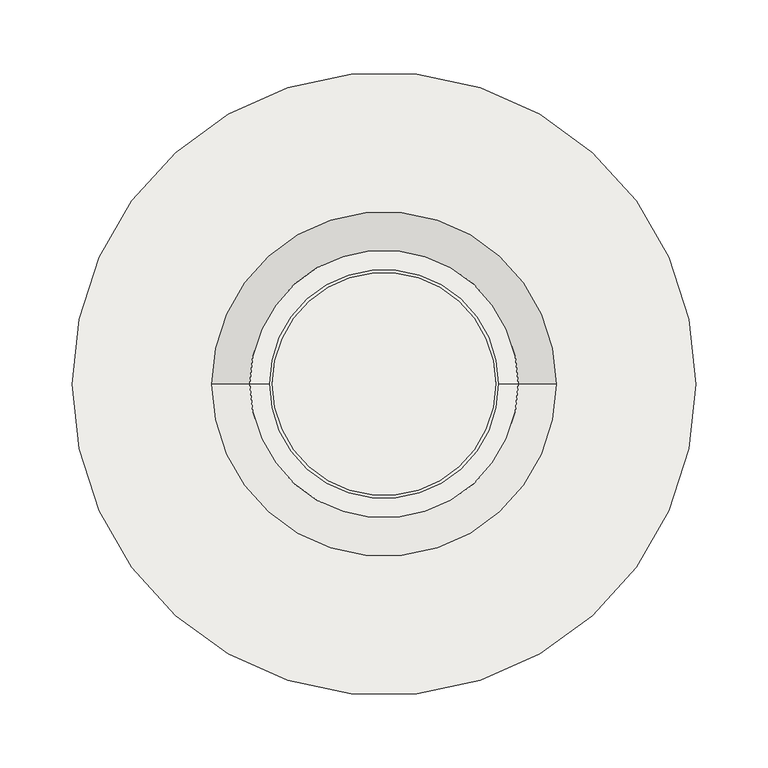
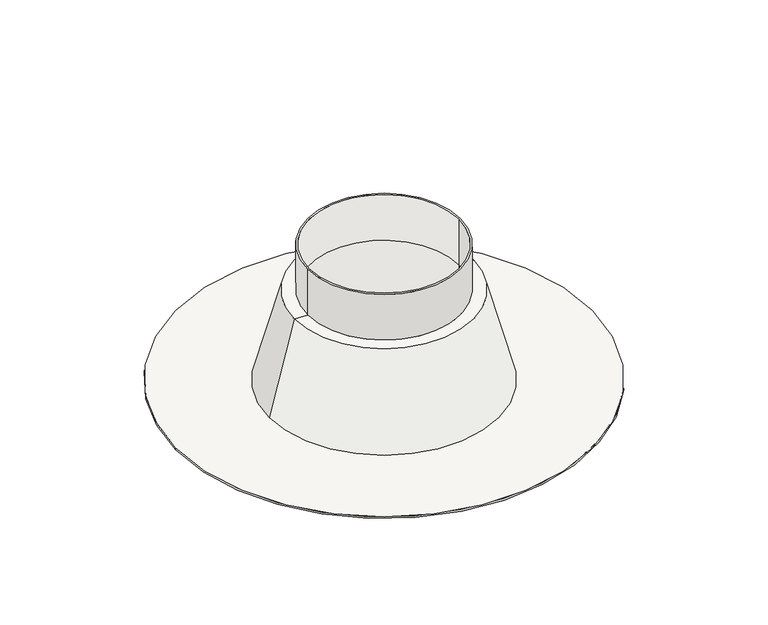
"""IFC4 building model written with IfcOpenShell, lengths in millimetres: covering geometry, RSFen_GM_WPB_weather slate flat roof_M&G : ø160."""

from ifc_helpers import new_model, si_unit, frame, origin, origin_with_axes, place, context, project, spatial, polyline, circle_curve, source, transform, mapped, element, save
from ifc_brep_helpers import plane_surface, cylinder_surface, revolved_surface, advanced_brep


def covering_b4739faa(model_context):
    return source(origin(), model_context, "Body", "AdvancedBrep", [
        advanced_brep(
        [(-215.0, 0.0, 2.0), (215.0, 0.0, 2.0), (-118.7590209, 0.0, 2.0), (118.7590209, 0.0, 2.0), (77.0, 0.0, 2.0), (-77.0, 0.0, 2.0), (-215.0, 0.0, 0.0), (215.0, 0.0, 0.0), (-92.5, 0.0, 100.0), (92.5, 0.0, 100.0), (-79.0, 0.0, 100.0), (79.0, 0.0, 100.0), (-77.0, 0.0, 100.0), (77.0, 0.0, 100.0), (-79.0, 0.0, 150.0), (79.0, 0.0, 150.0), (-77.0, 0.0, 150.0), (77.0, 0.0, 150.0)],
        [
            (0, 1, circle_curve(frame((0.0, 0.0, 2.0), z_axis=(0.0, 0.0, 1.0), x_axis=(1.0, 0.0, 0.0)), 215.0)),
            (1, 0, circle_curve(frame((0.0, 0.0, 2.0), z_axis=(0.0, 0.0, 1.0), x_axis=(1.0, 0.0, 0.0)), 215.0)),
            (2, 3, circle_curve(frame((0.0, 0.0, 2.0), z_axis=(0.0, 0.0, -1.0), x_axis=(-1.0, 0.0, 0.0)), 118.7590209)),
            (3, 2, circle_curve(frame((0.0, 0.0, 2.0), z_axis=(0.0, 0.0, -1.0), x_axis=(-1.0, 0.0, 0.0)), 118.7590209)),
            (4, 5, circle_curve(frame((0.0, 0.0, 2.0), z_axis=(0.0, 0.0, 1.0), x_axis=(-1.0, 0.0, 0.0)), 77.0)),
            (5, 4, circle_curve(frame((0.0, 0.0, 2.0), z_axis=(0.0, 0.0, 1.0), x_axis=(-1.0, 0.0, 0.0)), 77.0)),
            (6, 7, circle_curve(frame((0.0, 0.0, 0.0), z_axis=(0.0, 0.0, -1.0), x_axis=(1.0, 0.0, 0.0)), 215.0)),
            (7, 6, circle_curve(frame((0.0, 0.0, 0.0), z_axis=(0.0, 0.0, -1.0), x_axis=(1.0, 0.0, 0.0)), 215.0)),
            (0, 6),
            (7, 1),
            (2, 8),
            (8, 9, circle_curve(frame((0.0, 0.0, 100.0), z_axis=(0.0, 0.0, -1.0), x_axis=(-1.0, 0.0, 0.0)), 92.5)),
            (9, 3),
            (9, 8, circle_curve(frame((0.0, 0.0, 100.0), z_axis=(0.0, 0.0, -1.0), x_axis=(-1.0, 0.0, 0.0)), 92.5)),
            (8, 10),
            (10, 11, circle_curve(frame((0.0, 0.0, 100.0), z_axis=(0.0, 0.0, -1.0), x_axis=(1.0, 0.0, 0.0)), 79.0)),
            (11, 9),
            (11, 10, circle_curve(frame((0.0, 0.0, 100.0), z_axis=(0.0, 0.0, -1.0), x_axis=(1.0, 0.0, 0.0)), 79.0)),
            (12, 5),
            (4, 13),
            (13, 12, circle_curve(frame((0.0, 0.0, 100.0), z_axis=(0.0, 0.0, 1.0), x_axis=(-1.0, 0.0, 0.0)), 77.0)),
            (12, 13, circle_curve(frame((0.0, 0.0, 100.0), z_axis=(0.0, 0.0, 1.0), x_axis=(-1.0, 0.0, 0.0)), 77.0)),
            (14, 15, circle_curve(frame((0.0, 0.0, 150.0), z_axis=(0.0, 0.0, 1.0), x_axis=(1.0, 0.0, 0.0)), 79.0)),
            (15, 14, circle_curve(frame((0.0, 0.0, 150.0), z_axis=(0.0, 0.0, 1.0), x_axis=(1.0, 0.0, 0.0)), 79.0)),
            (16, 17, circle_curve(frame((0.0, 0.0, 150.0), z_axis=(0.0, 0.0, -1.0), x_axis=(1.0, 0.0, 0.0)), 77.0)),
            (17, 16, circle_curve(frame((0.0, 0.0, 150.0), z_axis=(0.0, 0.0, -1.0), x_axis=(1.0, 0.0, 0.0)), 77.0)),
            (14, 10),
            (11, 15),
            (16, 12),
            (13, 17),
        ],
        [
            plane_surface(frame((215.0, 0.0, 2.0), z_axis=(0.0, 0.0, 1.0), x_axis=(0.0, 1.0, 0.0))),
            plane_surface(frame((215.0, 0.0, 0.0), z_axis=(0.0, 0.0, -1.0), x_axis=(0.0, -1.0, 0.0))),
            cylinder_surface(origin_with_axes(), 215.0),
            revolved_surface(polyline([(-92.5, 0.0, 100.0), (-118.7590209, 0.0, 2.0)]), (0.0, 0.0, 2214.3150031), (0.0, 0.0, -1.0)),
            plane_surface(frame((0.0, 0.0, 100.0), z_axis=(0.0, 0.0, 1.0), x_axis=(-1.0, 0.0, 0.0))),
            revolved_surface(polyline([(-77.0, 0.0, 2.0), (-77.0, 0.0, 100.0)]), (0.0, 0.0, 2214.3150031), (0.0, 0.0, -1.0)),
            plane_surface(frame((79.0, 0.0, 150.0), z_axis=(0.0, 0.0, 1.0), x_axis=(0.0, 1.0, 0.0))),
            cylinder_surface(frame((0.0, 0.0, 100.0), z_axis=(0.0, 0.0, 1.0), x_axis=(1.0, 0.0, 0.0)), 79.0),
            revolved_surface(polyline([(77.0, 0.0, 100.0), (77.0, 0.0, 150.0)]), (0.0, 0.0, 0.0), (0.0, 0.0, -1.0)),
        ],
        [
            (0, [[1, 2], [3, 4]]),
            (0, [[5, 6]]),
            (1, [[7, 8]]),
            (2, [[-1, 9, -8, 10]]),
            (2, [[-2, -10, -7, -9]]),
            (3, [[11, 12, 13, -3]]),
            (3, [[-11, -4, -13, 14]]),
            (4, [[-12, 15, 16, 17]]),
            (4, [[-14, -17, 18, -15]]),
            (5, [[19, -5, 20, 21]]),
            (5, [[-19, 22, -20, -6]]),
            (6, [[23, 24], [25, 26]]),
            (7, [[-23, 27, -18, 28]]),
            (7, [[-24, -28, -16, -27]]),
            (8, [[-25, 29, -21, 30]]),
            (8, [[-26, -30, -22, -29]]),
        ],
    ),
    ])


if __name__ == "__main__":
    model = new_model("IFC4")
    model_context = context("Model", 3, world=origin())
    ifc_project = project(units=[si_unit("LENGTHUNIT", "METRE", prefix="MILLI")], contexts=[model_context])
    site = spatial("IfcSite", under=ifc_project)
    building = spatial("IfcBuilding", under=site)
    placement = place(None, origin())
    covering_shape = covering_b4739faa(model_context)
    element("IfcCovering", 1, ObjectType="RSFen_GM_WPB_weather slate flat roof_M&G : ø160", at=placement, inside=building, context=model_context, shape_type="MappedRepresentation", body=[
        mapped(covering_shape, transform((0.0, 0.0, 0.0), x_axis=(1.0, 0.0, 0.0), y_axis=(0.0, 1.0, 0.0), z_axis=(0.0, 0.0, 1.0))),
    ])
    save(model, "model.ifc")
